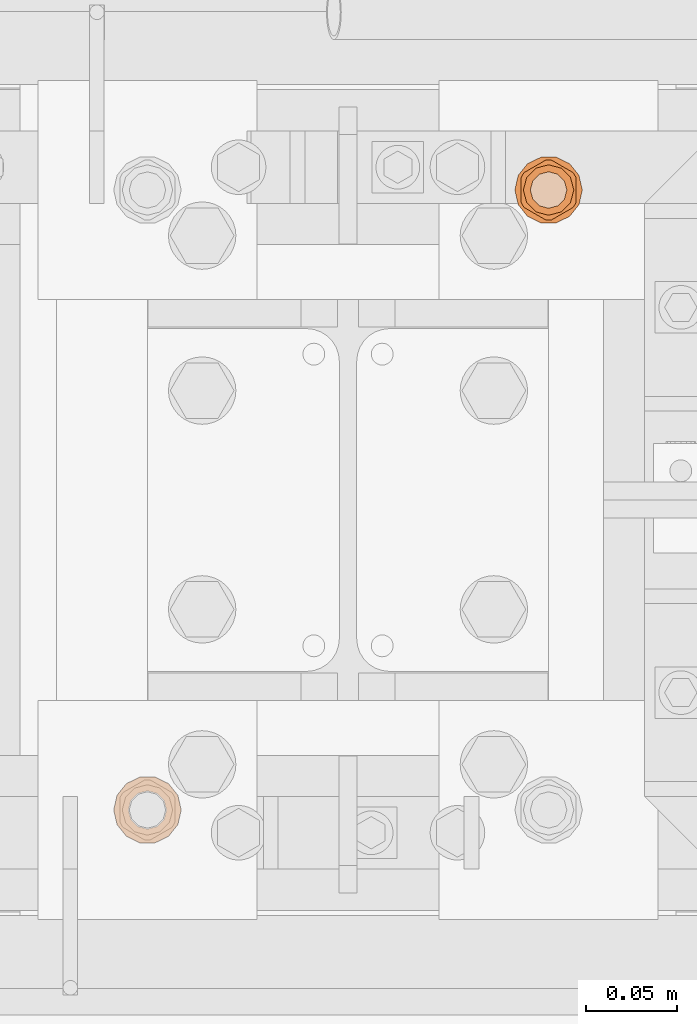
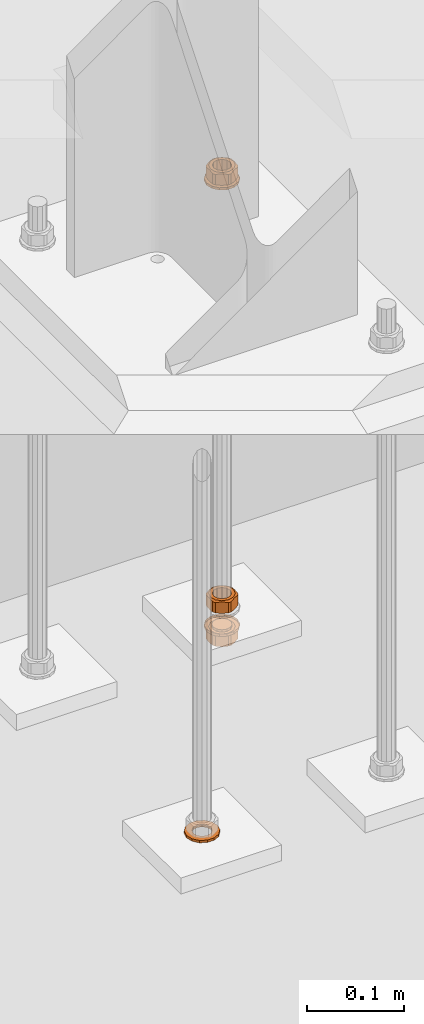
# One storey, part 141 of 145: 6 proxies.
"""IFC2X3 building model written with IfcOpenShell, lengths in millimetres."""

from ifc_helpers import new_model, entity, si_unit, converted_unit, origin_with_axes, place, context, project, spatial, faceted_brep, material, element, save


model = new_model("IFC2X3")

# Units and contexts
model_context = context("Model", 3, precision=1e-09, world=origin_with_axes())
ifc_project = project(units=[si_unit("LENGTHUNIT", "METRE", prefix="MILLI"), si_unit("AREAUNIT", "SQUARE_METRE"), si_unit("VOLUMEUNIT", "CUBIC_METRE"), converted_unit("PLANEANGLEUNIT", "DEGREE", entity("IfcPlaneAngleMeasure", 0.01745329), si_unit("PLANEANGLEUNIT", "RADIAN"), dimensions=[0, 0, 0, 0, 0, 0, 0])], contexts=[model_context])

# Site, building, storey
site_placement = place(None, origin_with_axes())
site = spatial("IfcSite", under=ifc_project, at=site_placement, Name="BZ1 Grund- und Mittelschule 85716 Unterschlei?heim", CompositionType="ELEMENT")
building_placement = place(site_placement, origin_with_axes())
building = spatial("IfcBuilding", under=site, at=building_placement, Name="Struktur 1", CompositionType="ELEMENT")
storey_placement = place(building_placement, origin_with_axes())
storey = spatial("IfcBuildingStorey", under=building, at=storey_placement, Name="Default Storey", CompositionType="ELEMENT", Elevation=0.0)

# Proxies
ifc_material = material(Name="A2")
proxy_1_placement = place(None, origin_with_axes())
element("IfcBuildingElementProxy", 1, at=proxy_1_placement, inside=storey, material=ifc_material, ObjectType="-", context=model_context, shape_type="Brep", body=[
    faceted_brep([(20332.379288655, -1510.538117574, -707.0), (20324.961364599, -1506.965833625, -707.0), (20316.728090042, -1506.965833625, -707.0), (20309.310165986, -1510.538117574, -707.0), (20304.176803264, -1516.975150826, -707.0), (20302.344727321, -1525.002, -707.0), (20304.176803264, -1533.028849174, -707.0), (20309.310165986, -1539.465882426, -707.0), (20316.728090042, -1543.038166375, -707.0), (20324.961364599, -1543.038166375, -707.0), (20332.379288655, -1539.465882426, -707.0), (20337.512651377, -1533.028849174, -707.0), (20339.344727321, -1525.002, -707.0), (20337.512651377, -1516.975150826, -707.0), (20320.844727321, -1514.502, -707.0), (20326.094727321, -1515.90873326, -707.0), (20329.93799406, -1519.752, -707.0), (20331.344727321, -1525.002, -707.0), (20329.93799406, -1530.252, -707.0), (20326.094727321, -1534.09526674, -707.0), (20320.844727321, -1535.502, -707.0), (20315.594727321, -1534.09526674, -707.0), (20311.751460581, -1530.252, -707.0), (20310.344727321, -1525.002, -707.0), (20311.751460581, -1519.752, -707.0), (20315.594727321, -1515.90873326, -707.0), (20309.310165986, -1510.538117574, -710.0), (20316.728090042, -1506.965833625, -710.0), (20324.961364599, -1506.965833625, -710.0), (20332.379288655, -1510.538117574, -710.0), (20337.512651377, -1516.975150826, -710.0), (20339.344727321, -1525.002, -710.0), (20337.512651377, -1533.028849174, -710.0), (20332.379288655, -1539.465882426, -710.0), (20324.961364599, -1543.038166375, -710.0), (20316.728090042, -1543.038166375, -710.0), (20309.310165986, -1539.465882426, -710.0), (20304.176803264, -1533.028849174, -710.0), (20302.344727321, -1525.002, -710.0), (20304.176803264, -1516.975150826, -710.0), (20320.844727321, -1514.502, -710.0), (20315.594727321, -1515.90873326, -710.0), (20311.751460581, -1519.752, -710.0), (20310.344727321, -1525.002, -710.0), (20311.751460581, -1530.252, -710.0), (20315.594727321, -1534.09526674, -710.0), (20320.844727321, -1535.502, -710.0), (20326.094727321, -1534.09526674, -710.0), (20329.93799406, -1530.252, -710.0), (20331.344727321, -1525.002, -710.0), (20329.93799406, -1519.752, -710.0), (20326.094727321, -1515.90873326, -710.0)], [[[0, 1, 2, 3, 4, 5, 6, 7, 8, 9, 10, 11, 12, 13], [14, 15, 16, 17, 18, 19, 20, 21, 22, 23, 24, 25]], [[26, 3, 2, 27]], [[26, 27, 28, 29, 30, 31, 32, 33, 34, 35, 36, 37, 38, 39], [40, 41, 42, 43, 44, 45, 46, 47, 48, 49, 50, 51]], [[3, 26, 39, 4]], [[41, 25, 24, 42]], [[4, 39, 38, 5]], [[25, 41, 40, 14]], [[27, 2, 1, 28]], [[42, 24, 23, 43]], [[5, 38, 37, 6]], [[14, 40, 51, 15]], [[28, 1, 0, 29]], [[43, 23, 22, 44]], [[6, 37, 36, 7]], [[15, 51, 50, 16]], [[29, 0, 13, 30]], [[44, 22, 21, 45]], [[7, 36, 35, 8]], [[16, 50, 49, 17]], [[12, 31, 30, 13]], [[45, 21, 20, 46]], [[8, 35, 34, 9]], [[31, 12, 11, 32]], [[17, 49, 48, 18]], [[10, 33, 32, 11]], [[9, 34, 33, 10]], [[46, 20, 19, 47]], [[18, 48, 47, 19]]]),
])
proxy_2_placement = place(None, origin_with_axes())
element("IfcBuildingElementProxy", 2, at=proxy_2_placement, inside=storey, material=ifc_material, ObjectType="-", context=model_context, shape_type="Brep", body=[
    faceted_brep([(20335.371914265, -1532.772872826, -705.484455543), (20334.838094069, -1533.697476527, -705.484455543), (20332.839179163, -1531.927, -707.0), (20335.371914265, -1532.772872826, -692.515544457), (20334.838094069, -1533.697476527, -692.515544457), (20334.245508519, -1534.585563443, -705.484455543), (20334.245508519, -1534.585563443, -692.515544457), (20335.844727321, -1531.815635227, -705.484455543), (20335.844727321, -1531.815635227, -692.515544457), (20332.839179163, -1531.927, -691.0), (20335.844727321, -1525.002, -706.33604719), (20334.694727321, -1525.002, -707.0), (20328.344727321, -1537.992381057, -706.33604719), (20328.344727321, -1537.992381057, -691.66395281), (20322.443946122, -1541.39919867, -692.515544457), (20322.443946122, -1541.39919867, -705.484455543), (20321.378547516, -1541.468349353, -705.484455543), (20321.378547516, -1541.468349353, -692.515544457), (20320.310907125, -1541.468349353, -692.515544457), (20320.310907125, -1541.468349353, -705.484455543), (20335.844727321, -1518.188364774, -705.484455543), (20335.844727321, -1518.188364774, -692.515544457), (20335.844727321, -1525.002, -691.66395281), (20327.769727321, -1513.007548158, -707.0), (20332.839179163, -1518.077, -707.0), (20327.769727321, -1536.996451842, -707.0), (20320.844727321, -1538.852, -707.0), (20313.919727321, -1536.996451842, -707.0), (20308.850275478, -1531.927, -707.0), (20306.994727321, -1525.002, -707.0), (20308.850275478, -1518.077, -707.0), (20313.919727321, -1513.007548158, -707.0), (20320.844727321, -1511.152, -707.0), (20330.844727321, -1525.002, -707.0), (20329.504981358, -1520.002, -707.0), (20325.844727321, -1516.341745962, -707.0), (20320.844727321, -1515.002, -707.0), (20315.844727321, -1516.341745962, -707.0), (20312.184473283, -1520.002, -707.0), (20310.844727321, -1525.002, -707.0), (20312.184473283, -1530.002, -707.0), (20315.844727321, -1533.662254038, -707.0), (20320.844727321, -1535.002, -707.0), (20325.844727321, -1533.662254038, -707.0), (20329.504981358, -1530.002, -707.0), (20329.504981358, -1530.002, -691.0), (20325.844727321, -1533.662254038, -691.0), (20327.769727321, -1536.996451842, -691.0), (20320.844727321, -1538.852, -691.0), (20335.371914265, -1517.231127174, -705.484455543), (20335.371914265, -1517.231127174, -692.515544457), (20334.694727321, -1525.002, -691.0), (20332.839179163, -1518.077, -691.0), (20327.769727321, -1513.007548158, -691.0), (20320.844727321, -1511.152, -691.0), (20313.919727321, -1513.007548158, -691.0), (20308.850275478, -1518.077, -691.0), (20306.994727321, -1525.002, -691.0), (20308.850275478, -1531.927, -691.0), (20313.919727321, -1536.996451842, -691.0), (20330.844727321, -1525.002, -691.0), (20320.844727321, -1535.002, -691.0), (20315.844727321, -1533.662254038, -691.0), (20312.184473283, -1530.002, -691.0), (20310.844727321, -1525.002, -691.0), (20312.184473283, -1520.002, -691.0), (20315.844727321, -1516.341745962, -691.0), (20320.844727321, -1515.002, -691.0), (20325.844727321, -1516.341745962, -691.0), (20329.504981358, -1520.002, -691.0), (20319.245508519, -1541.39919867, -705.484455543), (20319.245508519, -1541.39919867, -692.515544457), (20334.838094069, -1516.306523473, -705.484455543), (20334.838094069, -1516.306523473, -692.515544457), (20313.344727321, -1537.992381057, -706.33604719), (20313.344727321, -1537.992381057, -691.66395281), (20307.443946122, -1534.585563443, -692.515544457), (20307.443946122, -1534.585563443, -705.484455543), (20334.245508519, -1515.418436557, -705.484455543), (20334.245508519, -1515.418436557, -692.515544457), (20328.344727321, -1512.011618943, -706.33604719), (20322.443946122, -1508.60480133, -705.484455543), (20322.443946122, -1508.60480133, -692.515544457), (20328.344727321, -1512.011618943, -691.66395281), (20306.851360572, -1533.697476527, -692.515544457), (20306.851360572, -1533.697476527, -705.484455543), (20306.317540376, -1532.772872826, -692.515544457), (20306.317540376, -1532.772872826, -705.484455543), (20321.378547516, -1508.535650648, -705.484455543), (20321.378547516, -1508.535650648, -692.515544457), (20320.310907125, -1508.535650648, -705.484455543), (20320.310907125, -1508.535650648, -692.515544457), (20305.844727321, -1531.815635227, -692.515544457), (20305.844727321, -1531.815635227, -705.484455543), (20319.245508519, -1508.60480133, -705.484455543), (20319.245508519, -1508.60480133, -692.515544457), (20305.844727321, -1525.002, -706.33604719), (20313.344727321, -1512.011618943, -706.33604719), (20307.443946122, -1515.418436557, -705.484455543), (20307.443946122, -1515.418436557, -692.515544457), (20313.344727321, -1512.011618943, -691.66395281), (20305.844727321, -1525.002, -691.66395281), (20305.844727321, -1518.188364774, -692.515544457), (20305.844727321, -1518.188364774, -705.484455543), (20306.317540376, -1517.231127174, -705.484455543), (20306.317540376, -1517.231127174, -692.515544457), (20306.851360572, -1516.306523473, -705.484455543), (20306.851360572, -1516.306523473, -692.515544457)], [[[0, 1, 2]], [[0, 3, 4, 1]], [[5, 2, 1]], [[1, 4, 6, 5]], [[7, 0, 2]], [[3, 0, 7, 8]], [[9, 4, 3]], [[10, 7, 11]], [[7, 2, 11]], [[5, 12, 2]], [[6, 13, 14, 15, 12, 5]], [[9, 6, 4]], [[16, 17, 18, 19]], [[17, 16, 15, 14]], [[10, 20, 21, 22, 8, 7]], [[9, 3, 8]], [[20, 10, 11]], [[23, 24, 11, 2, 25, 26, 27, 28, 29, 30, 31, 32], [33, 34, 35, 36, 37, 38, 39, 40, 41, 42, 43, 44]], [[16, 19, 26]], [[12, 25, 2]], [[45, 44, 43, 46]], [[9, 47, 6]], [[48, 17, 14]], [[49, 50, 21, 20]], [[51, 9, 8]], [[9, 51, 52, 53, 54, 55, 56, 57, 58, 59, 48, 47], [60, 45, 46, 61, 62, 63, 64, 65, 66, 67, 68, 69]], [[44, 45, 60, 33]], [[20, 24, 49]], [[20, 11, 24]], [[70, 26, 19]], [[12, 15, 25]], [[15, 16, 26]], [[48, 14, 13]], [[47, 13, 6]], [[19, 18, 71, 70]], [[48, 18, 17]], [[72, 73, 50, 49]], [[51, 8, 22]], [[72, 49, 24]], [[70, 74, 26]], [[15, 26, 25]], [[46, 43, 42, 61]], [[47, 48, 13]], [[48, 71, 18]], [[71, 75, 76, 77, 74, 70]], [[33, 60, 69, 34]], [[78, 79, 73, 72]], [[52, 50, 73]], [[51, 22, 21]], [[52, 21, 50]], [[78, 72, 24]], [[74, 27, 26]], [[48, 59, 71]], [[80, 81, 82, 83, 79, 78]], [[52, 73, 79]], [[52, 51, 21]], [[78, 24, 23]], [[74, 77, 27]], [[61, 42, 41, 62]], [[59, 75, 71]], [[77, 76, 84, 85]], [[34, 69, 68, 35]], [[52, 79, 83]], [[80, 78, 23]], [[81, 80, 32]], [[77, 28, 27]], [[59, 58, 75]], [[58, 76, 75]], [[77, 85, 28]], [[85, 84, 86, 87]], [[88, 89, 82, 81]], [[53, 52, 83]], [[80, 23, 32]], [[81, 32, 88]], [[62, 41, 40, 63]], [[58, 84, 76]], [[85, 87, 28]], [[35, 68, 67, 36]], [[90, 91, 89, 88]], [[53, 83, 82]], [[54, 82, 89]], [[90, 88, 32]], [[86, 84, 58]], [[87, 86, 92, 93]], [[93, 28, 87]], [[39, 64, 63, 40]], [[91, 90, 94, 95]], [[54, 89, 91]], [[54, 53, 82]], [[94, 90, 32]], [[92, 86, 58]], [[93, 96, 28]], [[64, 39, 38, 65]], [[37, 66, 65, 38]], [[36, 67, 66, 37]], [[54, 91, 95]], [[94, 32, 31]], [[97, 98, 99, 100, 95, 94]], [[96, 29, 28]], [[92, 58, 57]], [[92, 101, 102, 103, 96, 93]], [[54, 95, 100]], [[97, 94, 31]], [[96, 103, 29]], [[101, 92, 57]], [[55, 54, 100]], [[97, 31, 30]], [[103, 30, 29]], [[101, 57, 56]], [[55, 100, 99]], [[98, 97, 30]], [[103, 104, 30]], [[103, 102, 105, 104]], [[102, 101, 56]], [[99, 56, 55]], [[98, 30, 106]], [[99, 98, 106, 107]], [[104, 106, 30]], [[102, 56, 105]], [[99, 107, 56]], [[104, 105, 107, 106]], [[107, 105, 56]]]),
])
proxy_3_placement = place(None, origin_with_axes())
element("IfcBuildingElementProxy", 3, at=proxy_3_placement, inside=storey, material=ifc_material, ObjectType="-", context=model_context, shape_type="Brep", body=[
    faceted_brep([(20335.371914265, -1532.772872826, -1245.484455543), (20334.838094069, -1533.697476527, -1245.484455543), (20332.839179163, -1531.927, -1247.0), (20335.371914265, -1532.772872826, -1232.515544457), (20334.838094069, -1533.697476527, -1232.515544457), (20334.245508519, -1534.585563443, -1245.484455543), (20334.245508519, -1534.585563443, -1232.515544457), (20335.844727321, -1531.815635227, -1245.484455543), (20335.844727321, -1531.815635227, -1232.515544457), (20332.839179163, -1531.927, -1231.0), (20335.844727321, -1525.002, -1246.33604719), (20334.694727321, -1525.002, -1247.0), (20328.344727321, -1537.992381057, -1246.33604719), (20328.344727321, -1537.992381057, -1231.66395281), (20322.443946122, -1541.39919867, -1232.515544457), (20322.443946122, -1541.39919867, -1245.484455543), (20321.378547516, -1541.468349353, -1245.484455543), (20321.378547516, -1541.468349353, -1232.515544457), (20320.310907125, -1541.468349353, -1232.515544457), (20320.310907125, -1541.468349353, -1245.484455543), (20335.844727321, -1518.188364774, -1245.484455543), (20335.844727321, -1518.188364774, -1232.515544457), (20335.844727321, -1525.002, -1231.66395281), (20327.769727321, -1513.007548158, -1247.0), (20332.839179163, -1518.077, -1247.0), (20327.769727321, -1536.996451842, -1247.0), (20320.844727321, -1538.852, -1247.0), (20313.919727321, -1536.996451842, -1247.0), (20308.850275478, -1531.927, -1247.0), (20306.994727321, -1525.002, -1247.0), (20308.850275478, -1518.077, -1247.0), (20313.919727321, -1513.007548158, -1247.0), (20320.844727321, -1511.152, -1247.0), (20330.844727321, -1525.002, -1247.0), (20329.504981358, -1520.002, -1247.0), (20325.844727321, -1516.341745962, -1247.0), (20320.844727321, -1515.002, -1247.0), (20315.844727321, -1516.341745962, -1247.0), (20312.184473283, -1520.002, -1247.0), (20310.844727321, -1525.002, -1247.0), (20312.184473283, -1530.002, -1247.0), (20315.844727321, -1533.662254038, -1247.0), (20320.844727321, -1535.002, -1247.0), (20325.844727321, -1533.662254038, -1247.0), (20329.504981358, -1530.002, -1247.0), (20329.504981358, -1530.002, -1231.0), (20325.844727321, -1533.662254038, -1231.0), (20327.769727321, -1536.996451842, -1231.0), (20320.844727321, -1538.852, -1231.0), (20335.371914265, -1517.231127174, -1245.484455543), (20335.371914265, -1517.231127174, -1232.515544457), (20334.694727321, -1525.002, -1231.0), (20332.839179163, -1518.077, -1231.0), (20327.769727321, -1513.007548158, -1231.0), (20320.844727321, -1511.152, -1231.0), (20313.919727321, -1513.007548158, -1231.0), (20308.850275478, -1518.077, -1231.0), (20306.994727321, -1525.002, -1231.0), (20308.850275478, -1531.927, -1231.0), (20313.919727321, -1536.996451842, -1231.0), (20330.844727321, -1525.002, -1231.0), (20320.844727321, -1535.002, -1231.0), (20315.844727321, -1533.662254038, -1231.0), (20312.184473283, -1530.002, -1231.0), (20310.844727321, -1525.002, -1231.0), (20312.184473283, -1520.002, -1231.0), (20315.844727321, -1516.341745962, -1231.0), (20320.844727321, -1515.002, -1231.0), (20325.844727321, -1516.341745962, -1231.0), (20329.504981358, -1520.002, -1231.0), (20319.245508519, -1541.39919867, -1245.484455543), (20319.245508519, -1541.39919867, -1232.515544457), (20334.838094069, -1516.306523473, -1245.484455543), (20334.838094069, -1516.306523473, -1232.515544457), (20313.344727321, -1537.992381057, -1246.33604719), (20313.344727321, -1537.992381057, -1231.66395281), (20307.443946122, -1534.585563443, -1232.515544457), (20307.443946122, -1534.585563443, -1245.484455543), (20334.245508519, -1515.418436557, -1245.484455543), (20334.245508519, -1515.418436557, -1232.515544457), (20328.344727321, -1512.011618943, -1246.33604719), (20322.443946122, -1508.60480133, -1245.484455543), (20322.443946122, -1508.60480133, -1232.515544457), (20328.344727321, -1512.011618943, -1231.66395281), (20306.851360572, -1533.697476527, -1232.515544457), (20306.851360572, -1533.697476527, -1245.484455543), (20306.317540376, -1532.772872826, -1232.515544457), (20306.317540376, -1532.772872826, -1245.484455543), (20321.378547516, -1508.535650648, -1245.484455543), (20321.378547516, -1508.535650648, -1232.515544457), (20320.310907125, -1508.535650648, -1245.484455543), (20320.310907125, -1508.535650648, -1232.515544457), (20305.844727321, -1531.815635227, -1232.515544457), (20305.844727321, -1531.815635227, -1245.484455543), (20319.245508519, -1508.60480133, -1245.484455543), (20319.245508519, -1508.60480133, -1232.515544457), (20305.844727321, -1525.002, -1246.33604719), (20313.344727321, -1512.011618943, -1246.33604719), (20307.443946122, -1515.418436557, -1245.484455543), (20307.443946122, -1515.418436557, -1232.515544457), (20313.344727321, -1512.011618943, -1231.66395281), (20305.844727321, -1525.002, -1231.66395281), (20305.844727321, -1518.188364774, -1232.515544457), (20305.844727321, -1518.188364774, -1245.484455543), (20306.317540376, -1517.231127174, -1245.484455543), (20306.317540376, -1517.231127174, -1232.515544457), (20306.851360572, -1516.306523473, -1245.484455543), (20306.851360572, -1516.306523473, -1232.515544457)], [[[0, 1, 2]], [[0, 3, 4, 1]], [[5, 2, 1]], [[1, 4, 6, 5]], [[7, 0, 2]], [[3, 0, 7, 8]], [[9, 4, 3]], [[10, 7, 11]], [[7, 2, 11]], [[5, 12, 2]], [[6, 13, 14, 15, 12, 5]], [[9, 6, 4]], [[16, 17, 18, 19]], [[17, 16, 15, 14]], [[10, 20, 21, 22, 8, 7]], [[9, 3, 8]], [[20, 10, 11]], [[23, 24, 11, 2, 25, 26, 27, 28, 29, 30, 31, 32], [33, 34, 35, 36, 37, 38, 39, 40, 41, 42, 43, 44]], [[16, 19, 26]], [[12, 25, 2]], [[45, 44, 43, 46]], [[9, 47, 6]], [[48, 17, 14]], [[49, 50, 21, 20]], [[51, 9, 8]], [[9, 51, 52, 53, 54, 55, 56, 57, 58, 59, 48, 47], [60, 45, 46, 61, 62, 63, 64, 65, 66, 67, 68, 69]], [[44, 45, 60, 33]], [[20, 24, 49]], [[20, 11, 24]], [[70, 26, 19]], [[12, 15, 25]], [[15, 16, 26]], [[48, 14, 13]], [[47, 13, 6]], [[19, 18, 71, 70]], [[48, 18, 17]], [[72, 73, 50, 49]], [[51, 8, 22]], [[72, 49, 24]], [[70, 74, 26]], [[15, 26, 25]], [[46, 43, 42, 61]], [[47, 48, 13]], [[48, 71, 18]], [[71, 75, 76, 77, 74, 70]], [[33, 60, 69, 34]], [[78, 79, 73, 72]], [[52, 50, 73]], [[51, 22, 21]], [[52, 21, 50]], [[78, 72, 24]], [[74, 27, 26]], [[48, 59, 71]], [[80, 81, 82, 83, 79, 78]], [[52, 73, 79]], [[52, 51, 21]], [[78, 24, 23]], [[74, 77, 27]], [[61, 42, 41, 62]], [[59, 75, 71]], [[77, 76, 84, 85]], [[34, 69, 68, 35]], [[52, 79, 83]], [[80, 78, 23]], [[81, 80, 32]], [[77, 28, 27]], [[59, 58, 75]], [[58, 76, 75]], [[77, 85, 28]], [[85, 84, 86, 87]], [[88, 89, 82, 81]], [[53, 52, 83]], [[80, 23, 32]], [[81, 32, 88]], [[62, 41, 40, 63]], [[58, 84, 76]], [[85, 87, 28]], [[35, 68, 67, 36]], [[90, 91, 89, 88]], [[53, 83, 82]], [[54, 82, 89]], [[90, 88, 32]], [[86, 84, 58]], [[87, 86, 92, 93]], [[93, 28, 87]], [[39, 64, 63, 40]], [[91, 90, 94, 95]], [[54, 89, 91]], [[54, 53, 82]], [[94, 90, 32]], [[92, 86, 58]], [[93, 96, 28]], [[64, 39, 38, 65]], [[37, 66, 65, 38]], [[36, 67, 66, 37]], [[54, 91, 95]], [[94, 32, 31]], [[97, 98, 99, 100, 95, 94]], [[96, 29, 28]], [[92, 58, 57]], [[92, 101, 102, 103, 96, 93]], [[54, 95, 100]], [[97, 94, 31]], [[96, 103, 29]], [[101, 92, 57]], [[55, 54, 100]], [[97, 31, 30]], [[103, 30, 29]], [[101, 57, 56]], [[55, 100, 99]], [[98, 97, 30]], [[103, 104, 30]], [[103, 102, 105, 104]], [[102, 101, 56]], [[99, 56, 55]], [[98, 30, 106]], [[99, 98, 106, 107]], [[104, 106, 30]], [[102, 56, 105]], [[99, 107, 56]], [[104, 105, 107, 106]], [[107, 105, 56]]]),
])
proxy_4_placement = place(None, origin_with_axes())
element("IfcBuildingElementProxy", 4, at=proxy_4_placement, inside=storey, material=ifc_material, ObjectType="-", context=model_context, shape_type="Brep", body=[
    faceted_brep([(20334.838094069, -1533.697476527, -1274.515544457), (20335.371914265, -1532.772872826, -1274.515544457), (20332.839179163, -1531.927, -1273.0), (20335.371914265, -1532.772872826, -1287.484455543), (20334.838094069, -1533.697476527, -1287.484455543), (20334.245508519, -1534.585563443, -1274.515544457), (20334.245508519, -1534.585563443, -1287.484455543), (20335.844727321, -1531.815635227, -1274.515544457), (20335.844727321, -1531.815635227, -1287.484455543), (20332.839179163, -1531.927, -1289.0), (20335.844727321, -1525.002, -1273.66395281), (20334.694727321, -1525.002, -1273.0), (20328.344727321, -1537.992381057, -1273.66395281), (20328.344727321, -1537.992381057, -1288.33604719), (20322.443946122, -1541.39919867, -1274.515544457), (20322.443946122, -1541.39919867, -1287.484455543), (20321.378547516, -1541.468349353, -1287.484455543), (20321.378547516, -1541.468349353, -1274.515544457), (20320.310907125, -1541.468349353, -1274.515544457), (20320.310907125, -1541.468349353, -1287.484455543), (20335.844727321, -1518.188364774, -1274.515544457), (20335.844727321, -1525.002, -1288.33604719), (20335.844727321, -1518.188364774, -1287.484455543), (20332.839179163, -1518.077, -1273.0), (20327.769727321, -1513.007548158, -1273.0), (20320.844727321, -1511.152, -1273.0), (20313.919727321, -1513.007548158, -1273.0), (20308.850275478, -1518.077, -1273.0), (20306.994727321, -1525.002, -1273.0), (20308.850275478, -1531.927, -1273.0), (20313.919727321, -1536.996451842, -1273.0), (20320.844727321, -1538.852, -1273.0), (20327.769727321, -1536.996451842, -1273.0), (20330.844727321, -1525.002, -1273.0), (20329.504981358, -1530.002, -1273.0), (20325.844727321, -1533.662254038, -1273.0), (20320.844727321, -1535.002, -1273.0), (20315.844727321, -1533.662254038, -1273.0), (20312.184473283, -1530.002, -1273.0), (20310.844727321, -1525.002, -1273.0), (20312.184473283, -1520.002, -1273.0), (20315.844727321, -1516.341745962, -1273.0), (20320.844727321, -1515.002, -1273.0), (20325.844727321, -1516.341745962, -1273.0), (20329.504981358, -1520.002, -1273.0), (20329.504981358, -1530.002, -1289.0), (20325.844727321, -1533.662254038, -1289.0), (20327.769727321, -1536.996451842, -1289.0), (20320.844727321, -1538.852, -1289.0), (20335.371914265, -1517.231127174, -1287.484455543), (20335.371914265, -1517.231127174, -1274.515544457), (20334.694727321, -1525.002, -1289.0), (20330.844727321, -1525.002, -1289.0), (20329.504981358, -1520.002, -1289.0), (20325.844727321, -1516.341745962, -1289.0), (20320.844727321, -1515.002, -1289.0), (20315.844727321, -1516.341745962, -1289.0), (20312.184473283, -1520.002, -1289.0), (20310.844727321, -1525.002, -1289.0), (20312.184473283, -1530.002, -1289.0), (20315.844727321, -1533.662254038, -1289.0), (20320.844727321, -1535.002, -1289.0), (20319.245508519, -1541.39919867, -1274.515544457), (20319.245508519, -1541.39919867, -1287.484455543), (20334.838094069, -1516.306523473, -1287.484455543), (20334.838094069, -1516.306523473, -1274.515544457), (20313.344727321, -1537.992381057, -1273.66395281), (20313.344727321, -1537.992381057, -1288.33604719), (20307.443946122, -1534.585563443, -1274.515544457), (20307.443946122, -1534.585563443, -1287.484455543), (20334.245508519, -1515.418436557, -1287.484455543), (20334.245508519, -1515.418436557, -1274.515544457), (20332.839179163, -1518.077, -1289.0), (20313.919727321, -1536.996451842, -1289.0), (20322.443946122, -1508.60480133, -1274.515544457), (20328.344727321, -1512.011618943, -1273.66395281), (20328.344727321, -1512.011618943, -1288.33604719), (20322.443946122, -1508.60480133, -1287.484455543), (20306.851360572, -1533.697476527, -1274.515544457), (20306.851360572, -1533.697476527, -1287.484455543), (20308.850275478, -1531.927, -1289.0), (20306.317540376, -1532.772872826, -1274.515544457), (20306.317540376, -1532.772872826, -1287.484455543), (20321.378547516, -1508.535650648, -1287.484455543), (20321.378547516, -1508.535650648, -1274.515544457), (20327.769727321, -1513.007548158, -1289.0), (20320.310907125, -1508.535650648, -1287.484455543), (20320.310907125, -1508.535650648, -1274.515544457), (20320.844727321, -1511.152, -1289.0), (20305.844727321, -1531.815635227, -1274.515544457), (20305.844727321, -1531.815635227, -1287.484455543), (20319.245508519, -1508.60480133, -1287.484455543), (20319.245508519, -1508.60480133, -1274.515544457), (20305.844727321, -1525.002, -1273.66395281), (20307.443946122, -1515.418436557, -1274.515544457), (20313.344727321, -1512.011618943, -1273.66395281), (20313.344727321, -1512.011618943, -1288.33604719), (20307.443946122, -1515.418436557, -1287.484455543), (20306.994727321, -1525.002, -1289.0), (20305.844727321, -1525.002, -1288.33604719), (20305.844727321, -1518.188364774, -1274.515544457), (20305.844727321, -1518.188364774, -1287.484455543), (20313.919727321, -1513.007548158, -1289.0), (20308.850275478, -1518.077, -1289.0), (20306.317540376, -1517.231127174, -1274.515544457), (20306.317540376, -1517.231127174, -1287.484455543), (20306.851360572, -1516.306523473, -1274.515544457), (20306.851360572, -1516.306523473, -1287.484455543)], [[[0, 1, 2]], [[3, 1, 0, 4]], [[2, 5, 0]], [[4, 0, 5, 6]], [[1, 7, 2]], [[1, 3, 8, 7]], [[4, 9, 3]], [[7, 10, 11]], [[2, 7, 11]], [[12, 5, 2]], [[13, 6, 5, 12, 14, 15]], [[6, 9, 4]], [[16, 17, 18, 19]], [[17, 16, 15, 14]], [[20, 10, 7, 8, 21, 22]], [[3, 9, 8]], [[10, 20, 11]], [[23, 24, 25, 26, 27, 28, 29, 30, 31, 32, 2, 11], [33, 34, 35, 36, 37, 38, 39, 40, 41, 42, 43, 44]], [[18, 17, 31]], [[32, 12, 2]], [[34, 45, 46, 35]], [[47, 9, 6]], [[16, 48, 15]], [[49, 50, 20, 22]], [[9, 51, 8]], [[45, 52, 53, 54, 55, 56, 57, 58, 59, 60, 61, 46]], [[45, 34, 33, 52]], [[23, 20, 50]], [[11, 20, 23]], [[31, 62, 18]], [[14, 12, 32]], [[17, 14, 31]], [[15, 48, 13]], [[13, 47, 6]], [[19, 18, 62, 63]], [[19, 48, 16]], [[64, 65, 50, 49]], [[8, 51, 21]], [[50, 65, 23]], [[66, 62, 31]], [[31, 14, 32]], [[35, 46, 61, 36]], [[48, 47, 13]], [[63, 48, 19]], [[67, 63, 62, 66, 68, 69]], [[52, 33, 44, 53]], [[70, 71, 65, 64]], [[49, 72, 64]], [[21, 51, 22]], [[22, 72, 49]], [[65, 71, 23]], [[30, 66, 31]], [[73, 48, 63]], [[74, 75, 71, 70, 76, 77]], [[64, 72, 70]], [[51, 72, 22]], [[23, 71, 24]], [[68, 66, 30]], [[36, 61, 60, 37]], [[67, 73, 63]], [[69, 68, 78, 79]], [[53, 44, 43, 54]], [[70, 72, 76]], [[71, 75, 24]], [[75, 74, 25]], [[29, 68, 30]], [[80, 73, 67]], [[69, 80, 67]], [[78, 68, 29]], [[79, 78, 81, 82]], [[83, 84, 74, 77]], [[72, 85, 76]], [[24, 75, 25]], [[25, 74, 84]], [[37, 60, 59, 38]], [[79, 80, 69]], [[81, 78, 29]], [[54, 43, 42, 55]], [[86, 87, 84, 83]], [[76, 85, 77]], [[77, 88, 83]], [[84, 87, 25]], [[79, 82, 80]], [[82, 81, 89, 90]], [[29, 89, 81]], [[58, 39, 38, 59]], [[87, 86, 91, 92]], [[83, 88, 86]], [[85, 88, 77]], [[87, 92, 25]], [[82, 90, 80]], [[93, 89, 29]], [[39, 58, 57, 40]], [[56, 41, 40, 57]], [[55, 42, 41, 56]], [[86, 88, 91]], [[25, 92, 26]], [[94, 95, 92, 91, 96, 97]], [[28, 93, 29]], [[80, 90, 98]], [[99, 90, 89, 93, 100, 101]], [[91, 88, 96]], [[92, 95, 26]], [[100, 93, 28]], [[90, 99, 98]], [[88, 102, 96]], [[26, 95, 27]], [[27, 100, 28]], [[98, 99, 103]], [[96, 102, 97]], [[95, 94, 27]], [[104, 100, 27]], [[101, 100, 104, 105]], [[99, 101, 103]], [[103, 97, 102]], [[27, 94, 106]], [[94, 97, 107, 106]], [[106, 104, 27]], [[103, 101, 105]], [[107, 97, 103]], [[105, 104, 106, 107]], [[105, 107, 103]]]),
])
proxy_5_placement = place(None, origin_with_axes())
element("IfcBuildingElementProxy", 5, at=proxy_5_placement, inside=storey, material=ifc_material, ObjectType="-", context=model_context, shape_type="Brep", body=[
    faceted_brep([(20324.961364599, -1506.965833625, -1273.0), (20332.379288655, -1510.538117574, -1273.0), (20337.512651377, -1516.975150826, -1273.0), (20339.344727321, -1525.002, -1273.0), (20337.512651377, -1533.028849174, -1273.0), (20332.379288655, -1539.465882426, -1273.0), (20324.961364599, -1543.038166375, -1273.0), (20316.728090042, -1543.038166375, -1273.0), (20309.310165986, -1539.465882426, -1273.0), (20304.176803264, -1533.028849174, -1273.0), (20302.344727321, -1525.002, -1273.0), (20304.176803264, -1516.975150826, -1273.0), (20309.310165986, -1510.538117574, -1273.0), (20316.728090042, -1506.965833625, -1273.0), (20320.844727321, -1514.502, -1273.0), (20315.594727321, -1515.90873326, -1273.0), (20311.751460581, -1519.752, -1273.0), (20310.344727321, -1525.002, -1273.0), (20311.751460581, -1530.252, -1273.0), (20315.594727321, -1534.09526674, -1273.0), (20320.844727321, -1535.502, -1273.0), (20326.094727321, -1534.09526674, -1273.0), (20329.93799406, -1530.252, -1273.0), (20331.344727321, -1525.002, -1273.0), (20329.93799406, -1519.752, -1273.0), (20326.094727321, -1515.90873326, -1273.0), (20309.310165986, -1510.538117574, -1270.0), (20316.728090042, -1506.965833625, -1270.0), (20315.594727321, -1515.90873326, -1270.0), (20320.844727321, -1514.502, -1270.0), (20326.094727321, -1515.90873326, -1270.0), (20329.93799406, -1519.752, -1270.0), (20331.344727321, -1525.002, -1270.0), (20329.93799406, -1530.252, -1270.0), (20326.094727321, -1534.09526674, -1270.0), (20320.844727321, -1535.502, -1270.0), (20315.594727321, -1534.09526674, -1270.0), (20311.751460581, -1530.252, -1270.0), (20310.344727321, -1525.002, -1270.0), (20311.751460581, -1519.752, -1270.0), (20304.176803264, -1516.975150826, -1270.0), (20302.344727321, -1525.002, -1270.0), (20324.961364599, -1506.965833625, -1270.0), (20304.176803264, -1533.028849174, -1270.0), (20332.379288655, -1510.538117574, -1270.0), (20309.310165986, -1539.465882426, -1270.0), (20337.512651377, -1516.975150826, -1270.0), (20316.728090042, -1543.038166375, -1270.0), (20339.344727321, -1525.002, -1270.0), (20324.961364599, -1543.038166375, -1270.0), (20337.512651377, -1533.028849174, -1270.0), (20332.379288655, -1539.465882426, -1270.0)], [[[0, 1, 2, 3, 4, 5, 6, 7, 8, 9, 10, 11, 12, 13], [14, 15, 16, 17, 18, 19, 20, 21, 22, 23, 24, 25]], [[12, 26, 27, 13]], [[28, 29, 30, 31, 32, 33, 34, 35, 36, 37, 38, 39]], [[26, 12, 11, 40]], [[15, 28, 39, 16]], [[40, 11, 10, 41]], [[28, 15, 14, 29]], [[13, 27, 42, 0]], [[16, 39, 38, 17]], [[41, 10, 9, 43]], [[29, 14, 25, 30]], [[0, 42, 44, 1]], [[17, 38, 37, 18]], [[43, 9, 8, 45]], [[30, 25, 24, 31]], [[1, 44, 46, 2]], [[18, 37, 36, 19]], [[45, 8, 7, 47]], [[31, 24, 23, 32]], [[48, 3, 2, 46]], [[19, 36, 35, 20]], [[47, 7, 6, 49]], [[3, 48, 50, 4]], [[32, 23, 22, 33]], [[51, 5, 4, 50]], [[49, 6, 5, 51]], [[20, 35, 34, 21]], [[33, 22, 21, 34]]]),
])
proxy_6_placement = place(None, origin_with_axes())
element("IfcBuildingElementProxy", 6, at=proxy_6_placement, inside=storey, material=ifc_material, ObjectType="-", context=model_context, shape_type="Brep", body=[
    faceted_brep([(20112.379288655, -1850.538117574, -1247.0), (20104.961364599, -1846.965833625, -1247.0), (20096.728090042, -1846.965833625, -1247.0), (20089.310165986, -1850.538117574, -1247.0), (20084.176803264, -1856.975150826, -1247.0), (20082.344727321, -1865.002, -1247.0), (20084.176803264, -1873.028849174, -1247.0), (20089.310165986, -1879.465882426, -1247.0), (20096.728090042, -1883.038166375, -1247.0), (20104.961364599, -1883.038166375, -1247.0), (20112.379288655, -1879.465882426, -1247.0), (20117.512651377, -1873.028849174, -1247.0), (20119.344727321, -1865.002, -1247.0), (20117.512651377, -1856.975150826, -1247.0), (20100.844727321, -1854.502, -1247.0), (20106.094727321, -1855.90873326, -1247.0), (20109.93799406, -1859.752, -1247.0), (20111.344727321, -1865.002, -1247.0), (20109.93799406, -1870.252, -1247.0), (20106.094727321, -1874.09526674, -1247.0), (20100.844727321, -1875.502, -1247.0), (20095.594727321, -1874.09526674, -1247.0), (20091.751460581, -1870.252, -1247.0), (20090.344727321, -1865.002, -1247.0), (20091.751460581, -1859.752, -1247.0), (20095.594727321, -1855.90873326, -1247.0), (20089.310165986, -1850.538117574, -1250.0), (20096.728090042, -1846.965833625, -1250.0), (20104.961364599, -1846.965833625, -1250.0), (20112.379288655, -1850.538117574, -1250.0), (20117.512651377, -1856.975150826, -1250.0), (20119.344727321, -1865.002, -1250.0), (20117.512651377, -1873.028849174, -1250.0), (20112.379288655, -1879.465882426, -1250.0), (20104.961364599, -1883.038166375, -1250.0), (20096.728090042, -1883.038166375, -1250.0), (20089.310165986, -1879.465882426, -1250.0), (20084.176803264, -1873.028849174, -1250.0), (20082.344727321, -1865.002, -1250.0), (20084.176803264, -1856.975150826, -1250.0), (20100.844727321, -1854.502, -1250.0), (20095.594727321, -1855.90873326, -1250.0), (20091.751460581, -1859.752, -1250.0), (20090.344727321, -1865.002, -1250.0), (20091.751460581, -1870.252, -1250.0), (20095.594727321, -1874.09526674, -1250.0), (20100.844727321, -1875.502, -1250.0), (20106.094727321, -1874.09526674, -1250.0), (20109.93799406, -1870.252, -1250.0), (20111.344727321, -1865.002, -1250.0), (20109.93799406, -1859.752, -1250.0), (20106.094727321, -1855.90873326, -1250.0)], [[[0, 1, 2, 3, 4, 5, 6, 7, 8, 9, 10, 11, 12, 13], [14, 15, 16, 17, 18, 19, 20, 21, 22, 23, 24, 25]], [[26, 3, 2, 27]], [[26, 27, 28, 29, 30, 31, 32, 33, 34, 35, 36, 37, 38, 39], [40, 41, 42, 43, 44, 45, 46, 47, 48, 49, 50, 51]], [[3, 26, 39, 4]], [[41, 25, 24, 42]], [[4, 39, 38, 5]], [[25, 41, 40, 14]], [[27, 2, 1, 28]], [[42, 24, 23, 43]], [[5, 38, 37, 6]], [[14, 40, 51, 15]], [[28, 1, 0, 29]], [[43, 23, 22, 44]], [[6, 37, 36, 7]], [[15, 51, 50, 16]], [[29, 0, 13, 30]], [[44, 22, 21, 45]], [[7, 36, 35, 8]], [[16, 50, 49, 17]], [[12, 31, 30, 13]], [[45, 21, 20, 46]], [[8, 35, 34, 9]], [[31, 12, 11, 32]], [[17, 49, 48, 18]], [[10, 33, 32, 11]], [[9, 34, 33, 10]], [[46, 20, 19, 47]], [[18, 48, 47, 19]]]),
])

save(model, "model.ifc")
